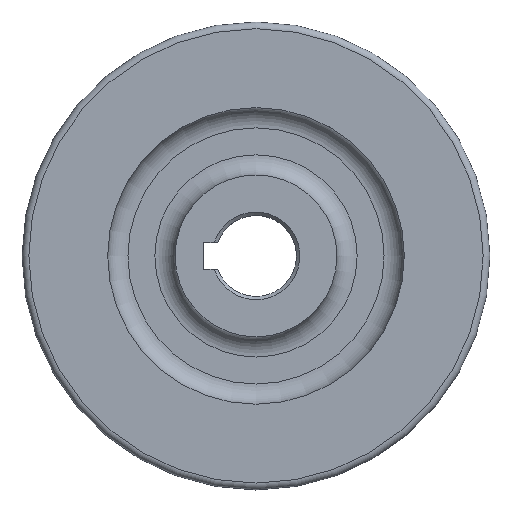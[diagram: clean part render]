
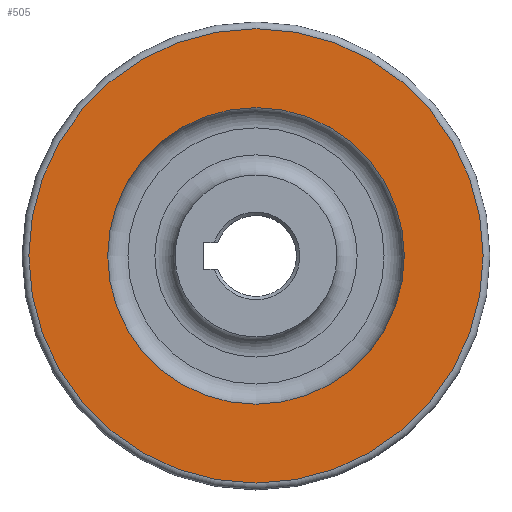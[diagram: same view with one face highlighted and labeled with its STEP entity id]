
A CAD part, top view. The second image highlights one B-rep face of the part: STEP entity #505.
In plain terms, the highlighted planar face has unit normal (0, 0, 1).
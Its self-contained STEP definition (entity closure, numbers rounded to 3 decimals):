
#38=FACE_BOUND('',#139,.T.);
#83=PLANE('',#584);
#102=FACE_OUTER_BOUND('',#138,.T.);
#138=EDGE_LOOP('',(#405));
#139=EDGE_LOOP('',(#406));
#178=CIRCLE('',#583,22.);
#179=CIRCLE('',#585,33.7);
#238=VERTEX_POINT('',#905);
#239=VERTEX_POINT('',#909);
#299=EDGE_CURVE('',#238,#238,#178,.T.);
#301=EDGE_CURVE('',#239,#239,#179,.T.);
#405=ORIENTED_EDGE('',*,*,#301,.F.);
#406=ORIENTED_EDGE('',*,*,#299,.T.);
#505=ADVANCED_FACE('',(#102,#38),#83,.T.);
#583=AXIS2_PLACEMENT_3D('',#906,#719,#720);
#584=AXIS2_PLACEMENT_3D('',#908,#722,#723);
#585=AXIS2_PLACEMENT_3D('',#910,#724,#725);
#719=DIRECTION('center_axis',(0.,0.,-1.));
#720=DIRECTION('ref_axis',(-1.,0.,0.));
#722=DIRECTION('center_axis',(0.,0.,1.));
#723=DIRECTION('ref_axis',(1.,0.,0.));
#724=DIRECTION('center_axis',(0.,0.,-1.));
#725=DIRECTION('ref_axis',(0.,-1.,0.));
#905=CARTESIAN_POINT('',(22.,0.,16.));
#906=CARTESIAN_POINT('Origin',(0.,0.,16.));
#908=CARTESIAN_POINT('Origin',(0.,17.35,16.));
#909=CARTESIAN_POINT('',(33.7,0.,16.));
#910=CARTESIAN_POINT('Origin',(0.,0.,16.));
